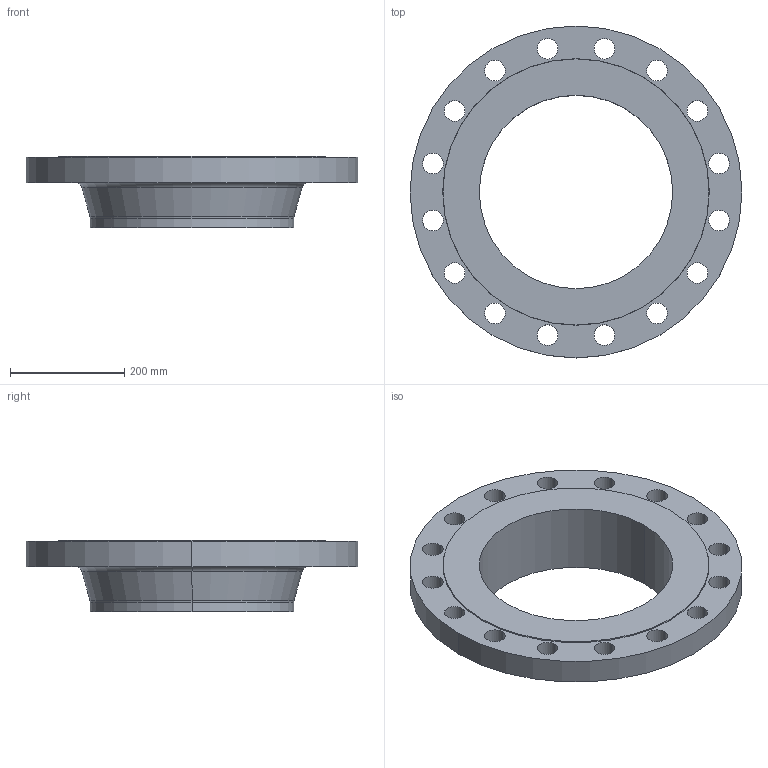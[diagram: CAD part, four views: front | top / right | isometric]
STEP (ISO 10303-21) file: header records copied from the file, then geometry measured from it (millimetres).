
FILE_DESCRIPTION (( 'STEP AP214' ), '1' );
FILE_NAME ('PN40 DN350 Type 11 - Type B Face.STEP', '2019-01-05T21:54:27', ( '' ), ( '' ), 'SwSTEP 2.0', 'SolidWorks 2019', '' );
FILE_SCHEMA (( 'AUTOMOTIVE_DESIGN' ));
Length unit declared in the file: millimetre
Products named in the file (1): PN40 DN350 Type 11 - Type B Face
Bounding box: 580 x 580 x 125 mm (x, y, z)
Volume: 8496315.5 mm3; surface area: 682430.1 mm2
Topology: 1 solids, 1 shells, 50 faces, 132 edges, 86 vertices
Faces by surface type: cylinder 38, cone 4, torus 4, plane 4
Entity records: 1700 total; most frequent: DIRECTION 324, CARTESIAN_POINT 269, ORIENTED_EDGE 264, AXIS2_PLACEMENT_3D 141, EDGE_CURVE 132, CIRCLE 90, EDGE_LOOP 86, VERTEX_POINT 86
